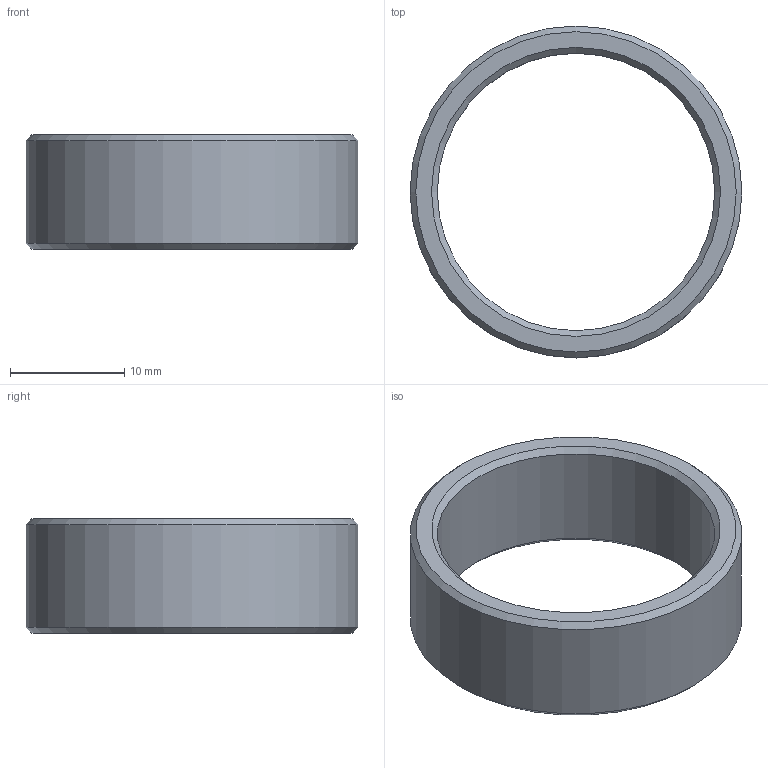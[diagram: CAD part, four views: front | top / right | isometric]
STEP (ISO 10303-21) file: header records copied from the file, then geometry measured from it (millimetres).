
FILE_DESCRIPTION(/* description */ (''),/* implementation_level */ '2;1');
FILE_NAME(/* name */ 'Y:\IvDoronin\- Фотоприемники -\- Модели -\4. Аксесуары для фотоприемников\TNut M25x1\Тубус 10 мм.stp',/* time_stamp */ '2019-08-27T17:10:49+03:00',/* author */ ('svlad'),/* organization */ (''),/* preprocessor_version */ 'ST-DEVELOPER v17',/* originating_system */ 'Autodesk Inventor 2019',/* authorisation */ '');
FILE_SCHEMA (('AUTOMOTIVE_DESIGN { 1 0 10303 214 3 1 1 }'));
Length unit declared in the file: millimetre
Products named in the file (1): Тубус 10 мм
Bounding box: 29 x 29 x 10 mm (x, y, z)
Volume: 1944.7 mm3; surface area: 1972.2 mm2
Topology: 1 solids, 1 shells, 8 faces, 14 edges, 8 vertices
Faces by surface type: cone 4, cylinder 2, plane 2
Full cylindrical faces by diameter (mm): 24.25 x1, 29 x1
Entity records: 231 total; most frequent: DIRECTION 40, CARTESIAN_POINT 31, ORIENTED_EDGE 28, AXIS2_PLACEMENT_3D 17, EDGE_CURVE 14, EDGE_LOOP 10, FACE_OUTER_BOUND 8, CIRCLE 8
